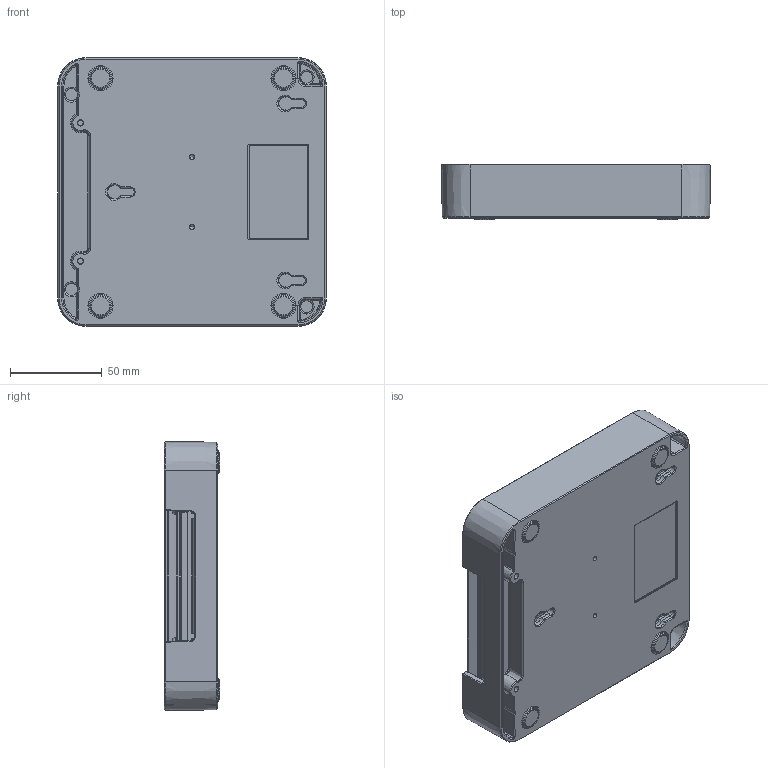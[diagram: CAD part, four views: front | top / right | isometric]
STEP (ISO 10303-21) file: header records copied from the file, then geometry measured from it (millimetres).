
FILE_DESCRIPTION((''),'2;1');
FILE_NAME('CU_SCB-100A','2017-05-17T',('hugyokog'),(''),'CREO PARAMETRIC BY PTC INC, 2015380','CREO PARAMETRIC BY PTC INC, 2015380','');
FILE_SCHEMA(('CONFIG_CONTROL_DESIGN'));
Products named in the file (1): CU_SCB-100A
Bounding box: 146.55 x 30.28 x 146.55 mm (x, y, z)
Volume: 157031.2 mm3; surface area: 124329.7 mm2
Topology: 2 solids, 2 shells, 2139 faces, 5151 edges, 3239 vertices
Faces by surface type: plane 1368, cylinder 305, torus 167, bspline 143, cone 122, sphere 32, extrusion 2
Entity records: 73038 total; most frequent: CARTESIAN_POINT 23997, ORIENTED_EDGE 10286, DIRECTION 9600, EDGE_CURVE 5143, VECTOR 3634, LINE 3632, VERTEX_POINT 3239, AXIS2_PLACEMENT_3D 2983
